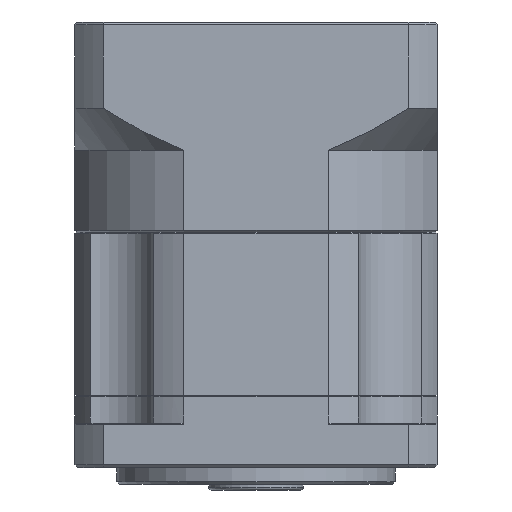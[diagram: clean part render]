
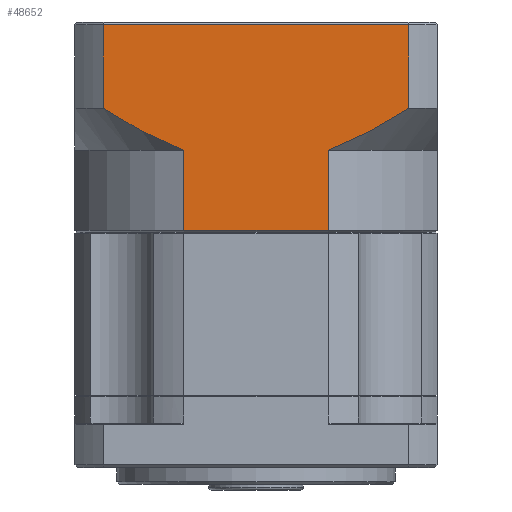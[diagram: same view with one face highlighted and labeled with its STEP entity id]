
A CAD part, front view. The second image highlights one B-rep face of the part: STEP entity #48652.
In plain terms, the highlighted planar face has unit normal (0, -1, 0).
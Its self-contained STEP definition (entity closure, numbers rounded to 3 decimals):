
#175 = CARTESIAN_POINT ( 'NONE',  ( 9.805, -17.317, 131.666 ) ) ;
#1802 = VECTOR ( 'NONE', #36766, 1000. ) ;
#3071 = CARTESIAN_POINT ( 'NONE',  ( 43.319, -17.317, 132.737 ) ) ;
#4592 = VECTOR ( 'NONE', #34647, 1000. ) ;
#8012 = CARTESIAN_POINT ( 'NONE',  ( 7.328, -17.317, 132.79 ) ) ;
#9365 = ORIENTED_EDGE ( 'NONE', *, *, #30682, .F. ) ;
#10882 = CARTESIAN_POINT ( 'NONE',  ( 38.328, -17.317, 130.65 ) ) ;
#11563 = ORIENTED_EDGE ( 'NONE', *, *, #20270, .T. ) ;
#12666 = VECTOR ( 'NONE', #97771, 1000. ) ;
#12851 = ORIENTED_EDGE ( 'NONE', *, *, #94703, .F. ) ;
#14766 = CARTESIAN_POINT ( 'NONE',  ( -2.048, -17.317, 153.15 ) ) ;
#15471 = ORIENTED_EDGE ( 'NONE', *, *, #89541, .F. ) ;
#15665 = ORIENTED_EDGE ( 'NONE', *, *, #84379, .F. ) ;
#15860 = CARTESIAN_POINT ( 'NONE',  ( 2.536, -17.317, 135.3 ) ) ;
#16175 = ORIENTED_EDGE ( 'NONE', *, *, #79267, .T. ) ;
#18835 = ORIENTED_EDGE ( 'NONE', *, *, #48353, .F. ) ;
#19524 = ORIENTED_EDGE ( 'NONE', *, *, #43106, .F. ) ;
#20270 = EDGE_CURVE ( 'NONE', #70427, #77028, #46940, .T. ) ;
#20326 = LINE ( 'NONE', #52676, #77254 ) ;
#22702 = CARTESIAN_POINT ( 'NONE',  ( 38.328, -17.317, 116.239 ) ) ;
#23661 = CARTESIAN_POINT ( 'NONE',  ( -2.048, -17.317, 138.15 ) ) ;
#23817 = CARTESIAN_POINT ( 'NONE',  ( 57.838, -17.317, 153.65 ) ) ;
#24497 = LINE ( 'NONE', #72384, #42814 ) ;
#26238 = B_SPLINE_CURVE_WITH_KNOTS ( 'NONE', 3,
 ( #88076, #80360, #26249, #95806, #49764, #3071, #57550, #10882 ),
 .UNSPECIFIED., .F., .F.,
 ( 4, 2, 2, 4 ),
 ( 0.059, 0.063, 0.067, 0.075 ),
 .UNSPECIFIED. ) ;
#26249 = CARTESIAN_POINT ( 'NONE',  ( 50.434, -17.317, 136.701 ) ) ;
#30682 = EDGE_CURVE ( 'NONE', #70427, #71851, #43311, .T. ) ;
#31199 = CARTESIAN_POINT ( 'NONE',  ( 12.348, -17.317, 130.65 ) ) ;
#31699 = DIRECTION ( 'NONE',  ( -1., 0., 0. ) ) ;
#34647 = DIRECTION ( 'NONE',  ( 0., 0., 1. ) ) ;
#36766 = DIRECTION ( 'NONE',  ( 0., 0., -1. ) ) ;
#37696 = EDGE_LOOP ( 'NONE', ( #9365, #11563, #12851, #15471, #15665, #16175, #18835, #19524 ) ) ;
#42814 = VECTOR ( 'NONE', #49906, 1000. ) ;
#43106 = EDGE_CURVE ( 'NONE', #71851, #77611, #26238, .T. ) ;
#43311 = LINE ( 'NONE', #67879, #1802 ) ;
#44050 = CARTESIAN_POINT ( 'NONE',  ( -2.048, -17.317, 138.15 ) ) ;
#44877 = DIRECTION ( 'NONE',  ( 0., 0., 1. ) ) ;
#44947 = CARTESIAN_POINT ( 'NONE',  ( 52.724, -17.317, 153.15 ) ) ;
#45034 = B_SPLINE_CURVE_WITH_KNOTS ( 'NONE', 3,
 ( #31199, #77545, #46926, #175, #54685, #8012, #62408, #15860, #70097, #23661 ),
 .UNSPECIFIED., .F., .F.,
 ( 4, 2, 2, 2, 4 ),
 ( 0.101, 0.104, 0.106, 0.11, 0.118 ),
 .UNSPECIFIED. ) ;
#45199 = FACE_OUTER_BOUND ( 'NONE', #37696, .T. ) ;
#46148 = DIRECTION ( 'NONE',  ( -1., 0., 0. ) ) ;
#46926 = CARTESIAN_POINT ( 'NONE',  ( 11.066, -17.317, 131.141 ) ) ;
#46940 = LINE ( 'NONE', #14766, #67446 ) ;
#48098 = CARTESIAN_POINT ( 'NONE',  ( 52.724, -17.317, 138.15 ) ) ;
#48353 = EDGE_CURVE ( 'NONE', #77611, #79419, #24497, .T. ) ;
#48652 = ADVANCED_FACE ( 'NONE', ( #45199 ), #92746, .F. ) ;
#49764 = CARTESIAN_POINT ( 'NONE',  ( 46.913, -17.317, 134.646 ) ) ;
#49906 = DIRECTION ( 'NONE',  ( 0., 0., -1. ) ) ;
#50064 = AXIS2_PLACEMENT_3D ( 'NONE', #23817, #78031, #31699 ) ;
#52676 = CARTESIAN_POINT ( 'NONE',  ( -2.048, -17.317, 135.65 ) ) ;
#54685 = CARTESIAN_POINT ( 'NONE',  ( 9.182, -17.317, 131.94 ) ) ;
#57550 = CARTESIAN_POINT ( 'NONE',  ( 40.867, -17.317, 131.592 ) ) ;
#62408 = CARTESIAN_POINT ( 'NONE',  ( 6.116, -17.317, 133.395 ) ) ;
#66361 = CARTESIAN_POINT ( 'NONE',  ( 38.328, -17.317, 130.65 ) ) ;
#66607 = LINE ( 'NONE', #72452, #4592 ) ;
#67446 = VECTOR ( 'NONE', #46148, 1000. ) ;
#67879 = CARTESIAN_POINT ( 'NONE',  ( 52.724, -17.317, 135.65 ) ) ;
#69758 = VERTEX_POINT ( 'NONE', #82105 ) ;
#70097 = CARTESIAN_POINT ( 'NONE',  ( 0.221, -17.317, 136.688 ) ) ;
#70427 = VERTEX_POINT ( 'NONE', #44947 ) ;
#71803 = CARTESIAN_POINT ( 'NONE',  ( -2.048, -17.317, 153.15 ) ) ;
#71851 = VERTEX_POINT ( 'NONE', #48098 ) ;
#72384 = CARTESIAN_POINT ( 'NONE',  ( 38.328, -17.317, 130.65 ) ) ;
#72452 = CARTESIAN_POINT ( 'NONE',  ( 12.348, -17.317, 130.65 ) ) ;
#72457 = VERTEX_POINT ( 'NONE', #77512 ) ;
#74540 = LINE ( 'NONE', #90005, #12666 ) ;
#76251 = VERTEX_POINT ( 'NONE', #44050 ) ;
#77028 = VERTEX_POINT ( 'NONE', #71803 ) ;
#77254 = VECTOR ( 'NONE', #44877, 1000. ) ;
#77512 = CARTESIAN_POINT ( 'NONE',  ( 12.348, -17.317, 116.239 ) ) ;
#77545 = CARTESIAN_POINT ( 'NONE',  ( 11.705, -17.317, 130.889 ) ) ;
#77611 = VERTEX_POINT ( 'NONE', #66361 ) ;
#78031 = DIRECTION ( 'NONE',  ( 0., 1., 0. ) ) ;
#79267 = EDGE_CURVE ( 'NONE', #72457, #79419, #74540, .T. ) ;
#79419 = VERTEX_POINT ( 'NONE', #22702 ) ;
#80360 = CARTESIAN_POINT ( 'NONE',  ( 51.586, -17.317, 137.416 ) ) ;
#82105 = CARTESIAN_POINT ( 'NONE',  ( 12.348, -17.317, 130.65 ) ) ;
#84379 = EDGE_CURVE ( 'NONE', #72457, #69758, #66607, .T. ) ;
#88076 = CARTESIAN_POINT ( 'NONE',  ( 52.724, -17.317, 138.15 ) ) ;
#89541 = EDGE_CURVE ( 'NONE', #69758, #76251, #45034, .T. ) ;
#90005 = CARTESIAN_POINT ( 'NONE',  ( 57.838, -17.317, 116.239 ) ) ;
#92746 = PLANE ( 'NONE',  #50064 ) ;
#94703 = EDGE_CURVE ( 'NONE', #76251, #77028, #20326, .T. ) ;
#95806 = CARTESIAN_POINT ( 'NONE',  ( 48.098, -17.317, 135.316 ) ) ;
#97771 = DIRECTION ( 'NONE',  ( 1., 0., 0. ) ) ;
